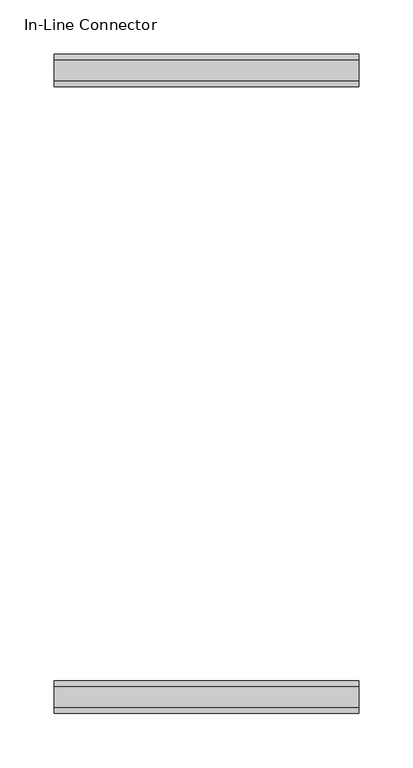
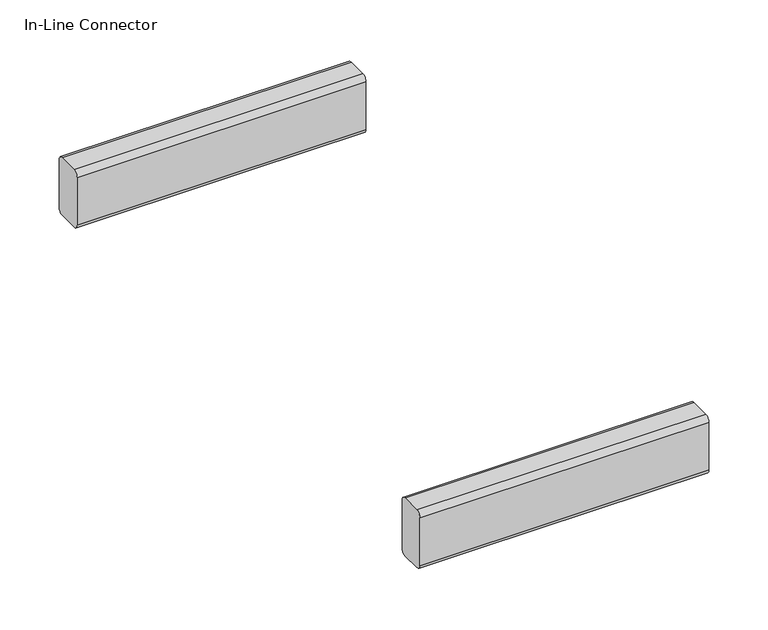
"""IFC4 building model written with IfcOpenShell, lengths in millimetres: furniture geometry, Coalesse_AM_Ensemble_Chaise_EndFeet : In-Line Connector."""

from ifc_helpers import new_model, si_unit, point, frame, frame_2d, origin, place, context, project, spatial, polyline, circle_curve, trimmed, segment, composite_curve, outline, extrude, source, transform, mapped, element, save


def in_line_connector_dbd1c412(model_context):
    return source(origin(), model_context, "Body", "SweptSolid", [
        extrude(outline(composite_curve([segment(polyline([(108.865872, 130.0907271), (128.9876575, 130.0907271)]), True, "CONTINUOUS"), segment(trimmed(circle_curve(frame_2d((128.9876575, 125.0107271)), 5.08), [point((128.9876575, 130.0907271))], [point((134.0676575, 125.0107271))], False, "CARTESIAN"), True, "CONTINUOUS"), segment(polyline([(134.0676575, 125.0107271), (134.0676575, 75.5475648)]), True, "CONTINUOUS"), segment(trimmed(circle_curve(frame_2d((129.0980339, 75.5475648)), 4.9696236), [point((134.0676575, 75.5475648))], [point((129.0980339, 70.5779413))], False, "CARTESIAN"), True, "CONTINUOUS"), segment(polyline([(129.0980339, 70.5779413), (108.865872, 70.5779413)]), True, "CONTINUOUS"), segment(trimmed(circle_curve(frame_2d((108.865872, 75.6579413)), 5.08), [point((108.865872, 70.5779413))], [point((103.785872, 75.6579413))], False, "CARTESIAN"), True, "CONTINUOUS"), segment(polyline([(103.785872, 75.6579413), (103.785872, 125.0107271)]), True, "CONTINUOUS"), segment(trimmed(circle_curve(frame_2d((108.865872, 125.0107271)), 5.08), [point((103.785872, 125.0107271))], [point((108.865872, 130.0907271))], False, "CARTESIAN"), True, "CONTINUOUS")], self_intersect=False)), frame((-78.8111696, 0.0, 0.0), z_axis=(1.0, 0.0, 0.0), x_axis=(0.0, 1.0, 0.0)), (0.0, 0.0, 1.0), 282.0111696),
        extrude(outline(composite_curve([segment(polyline([(688.6735965, 130.0907271), (708.795382, 130.0907271)]), True, "CONTINUOUS"), segment(trimmed(circle_curve(frame_2d((708.795382, 125.0107271)), 5.08), [point((708.795382, 130.0907271))], [point((713.875382, 125.0107271))], False, "CARTESIAN"), True, "CONTINUOUS"), segment(polyline([(713.875382, 125.0107271), (713.875382, 75.5475648)]), True, "CONTINUOUS"), segment(trimmed(circle_curve(frame_2d((708.9057584, 75.5475648)), 4.9696236), [point((713.875382, 75.5475648))], [point((708.9057584, 70.5779413))], False, "CARTESIAN"), True, "CONTINUOUS"), segment(polyline([(708.9057584, 70.5779413), (688.6735965, 70.5779413)]), True, "CONTINUOUS"), segment(trimmed(circle_curve(frame_2d((688.6735965, 75.6579413)), 5.08), [point((688.6735965, 70.5779413))], [point((683.5935965, 75.6579413))], False, "CARTESIAN"), True, "CONTINUOUS"), segment(polyline([(683.5935965, 75.6579413), (683.5935965, 125.0107271)]), True, "CONTINUOUS"), segment(trimmed(circle_curve(frame_2d((688.6735965, 125.0107271)), 5.08), [point((683.5935965, 125.0107271))], [point((688.6735965, 130.0907271))], False, "CARTESIAN"), True, "CONTINUOUS")], self_intersect=False)), frame((-78.8111696, 0.0, 0.0), z_axis=(1.0, 0.0, 0.0), x_axis=(0.0, 1.0, 0.0)), (0.0, 0.0, 1.0), 282.0111696),
    ])


if __name__ == "__main__":
    model = new_model("IFC4")
    model_context = context("Model", 3, world=origin())
    ifc_project = project(units=[si_unit("LENGTHUNIT", "METRE", prefix="MILLI")], contexts=[model_context])
    site = spatial("IfcSite", under=ifc_project)
    building = spatial("IfcBuilding", under=site)
    placement = place(None, origin())
    in_line_connector_shape = in_line_connector_dbd1c412(model_context)
    element("IfcFurniture", 1, ObjectType="Coalesse_AM_Ensemble_Chaise_EndFeet : In-Line Connector", at=placement, inside=building, context=model_context, shape_type="MappedRepresentation", body=[
        mapped(in_line_connector_shape, transform((0.0, 0.0, 0.0), x_axis=(1.0, 0.0, 0.0), y_axis=(0.0, 1.0, 0.0), z_axis=(0.0, 0.0, 1.0))),
    ])
    save(model, "model.ifc")
